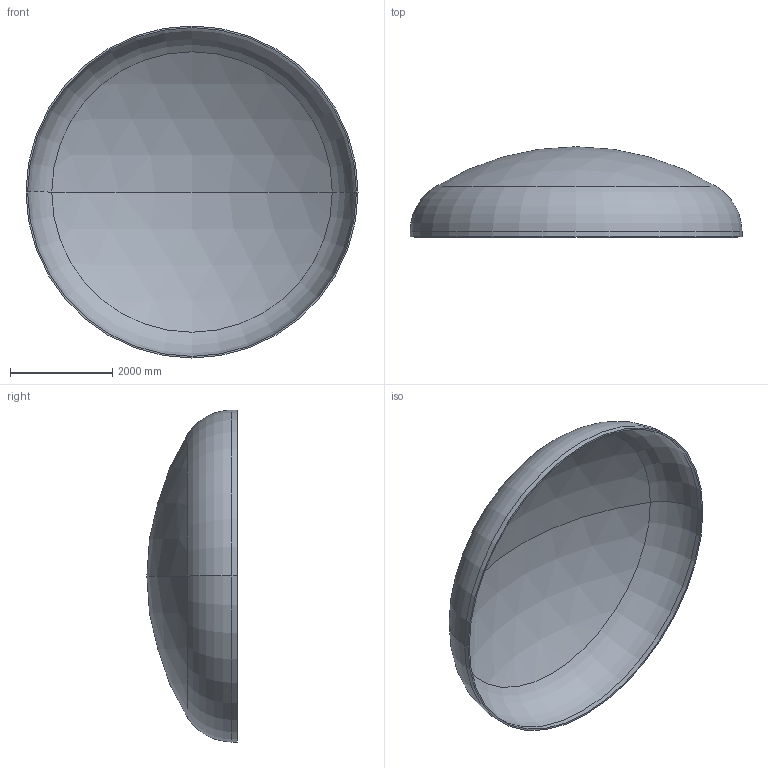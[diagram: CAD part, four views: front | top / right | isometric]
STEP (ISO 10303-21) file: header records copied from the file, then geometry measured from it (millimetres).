
FILE_DESCRIPTION (( 'STEP AP203' ), '1' );
FILE_NAME ('DIN 28013 Korbbogenform_-_Boden DIN 28013 - 6500 x 100 - I - s=32.step', '2016-07-04T10:41:14', ( '' ), ( '' ), 'SwSTEP 2.0', 'SolidWorks 2013', '' );
FILE_SCHEMA (( 'CONFIG_CONTROL_DESIGN' ));
Length unit declared in the file: millimetre
Products named in the file (1): DIN 28013 Korbbogenform_-_Boden DIN 28013 - 6500 x 100 - I - s=32
Bounding box: 6500 x 1765.42 x 6500 mm (x, y, z)
Volume: 1525910213.8 mm3; surface area: 96021729.5 mm2
Topology: 1 solids, 1 shells, 13 faces, 24 edges, 14 vertices
Faces by surface type: torus 4, cylinder 4, sphere 4, plane 1
Entity records: 407 total; most frequent: DIRECTION 72, CARTESIAN_POINT 52, ORIENTED_EDGE 48, AXIS2_PLACEMENT_3D 34, EDGE_CURVE 24, CIRCLE 20, EDGE_LOOP 14, VERTEX_POINT 14
